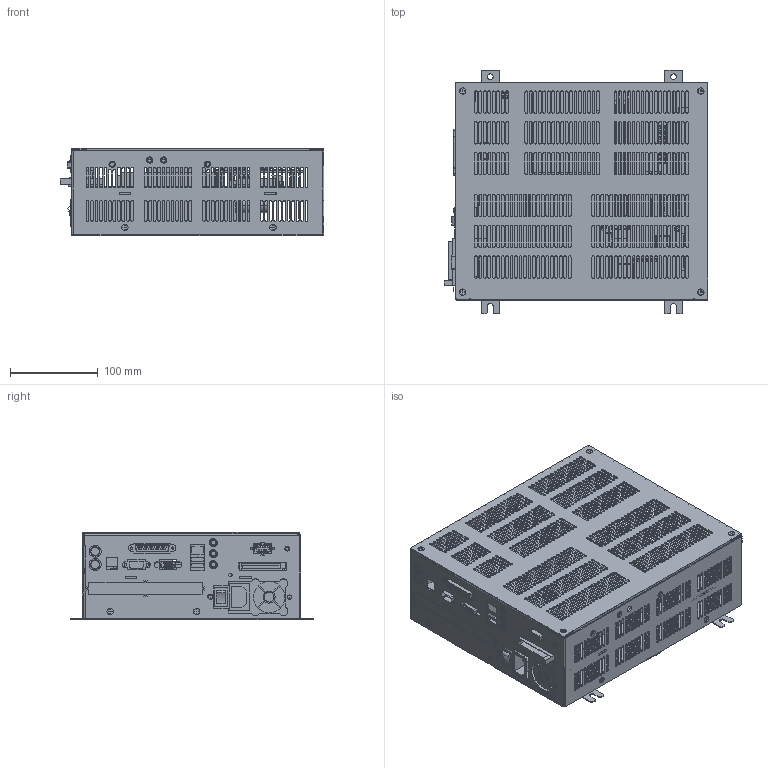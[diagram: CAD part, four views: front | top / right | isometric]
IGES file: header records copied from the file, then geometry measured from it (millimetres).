
Start section:  PTC IGES file: hp_remote_no_exp.igs
Global section: file name: hp_remote_no_exp.igs; native system: Pro/ENGINEER by Parametric Technology Corporation; preprocessor: 2000100; author: srollman; organization: Unknown; date: 050106.092109; units: inch
Bounding box: 299.78 x 277.24 x 98.91 mm (x, y, z)
Surface area: 729017.3 mm2 (no closed solid volume)
Topology: 0 solids, 0 shells, 464 faces, 8264 edges, 8261 vertices
Faces by surface type: bspline 411, revolution 53
